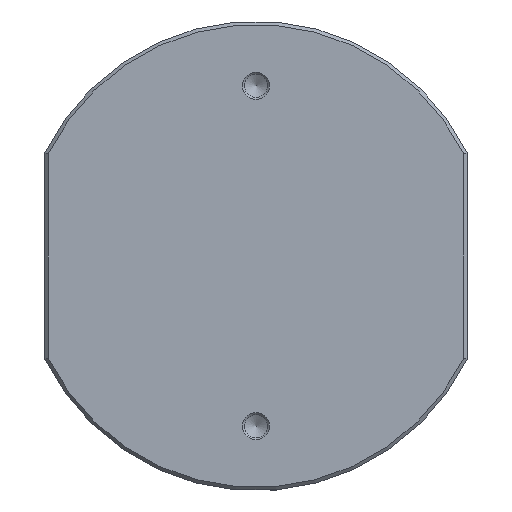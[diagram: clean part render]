
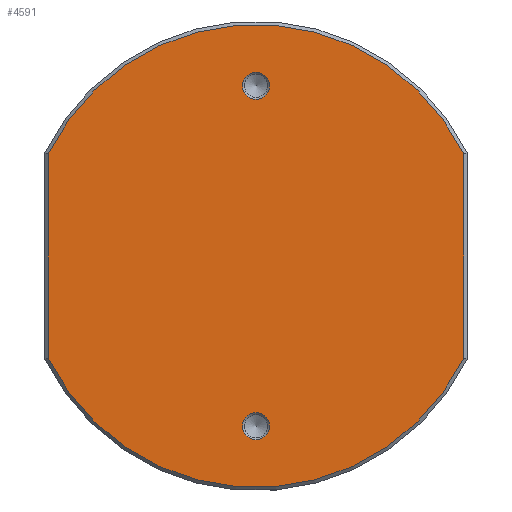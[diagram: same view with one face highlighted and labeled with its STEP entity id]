
A CAD part, front view. The second image highlights one B-rep face of the part: STEP entity #4591.
In plain terms, the highlighted planar face has unit normal (0, -1, 0).
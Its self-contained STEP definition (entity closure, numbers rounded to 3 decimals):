
#681=LINE('',#36121,#1237);
#682=LINE('',#36125,#1238);
#1237=VECTOR('',#17454,1.);
#1238=VECTOR('',#17457,1.);
#3774=FACE_BOUND('',#6443,.T.);
#3775=FACE_BOUND('',#6444,.T.);
#3776=FACE_BOUND('',#6445,.T.);
#4591=ADVANCED_FACE('',(#3774,#3775,#3776),#4943,.F.);
#4943=PLANE('',#14201);
#6443=EDGE_LOOP('',(#9285,#9286,#9287,#9288));
#6444=EDGE_LOOP('',(#9289));
#6445=EDGE_LOOP('',(#9290));
#9285=ORIENTED_EDGE('',*,*,#11883,.T.);
#9286=ORIENTED_EDGE('',*,*,#11884,.T.);
#9287=ORIENTED_EDGE('',*,*,#11885,.T.);
#9288=ORIENTED_EDGE('',*,*,#11886,.T.);
#9289=ORIENTED_EDGE('',*,*,#11881,.T.);
#9290=ORIENTED_EDGE('',*,*,#11878,.T.);
#10414=VERTEX_POINT('',#36105);
#10417=VERTEX_POINT('',#36113);
#10419=VERTEX_POINT('',#36119);
#10420=VERTEX_POINT('',#36120);
#10421=VERTEX_POINT('',#36122);
#10422=VERTEX_POINT('',#36124);
#11878=EDGE_CURVE('',#10414,#10414,#12596,.T.);
#11881=EDGE_CURVE('',#10417,#10417,#12599,.T.);
#11883=EDGE_CURVE('',#10419,#10420,#12601,.T.);
#11884=EDGE_CURVE('',#10420,#10421,#681,.T.);
#11885=EDGE_CURVE('',#10421,#10422,#12602,.T.);
#11886=EDGE_CURVE('',#10422,#10419,#682,.T.);
#12596=CIRCLE('',#14190,4.);
#12599=CIRCLE('',#14195,4.);
#12601=CIRCLE('',#14199,68.);
#12602=CIRCLE('',#14200,68.);
#14190=AXIS2_PLACEMENT_3D('',#36104,#17434,#17435);
#14195=AXIS2_PLACEMENT_3D('',#36112,#17444,#17445);
#14199=AXIS2_PLACEMENT_3D('',#36118,#17452,#17453);
#14200=AXIS2_PLACEMENT_3D('',#36123,#17455,#17456);
#14201=AXIS2_PLACEMENT_3D('',#36126,#17458,#17459);
#17434=DIRECTION('',(0.,1.,0.));
#17435=DIRECTION('',(0.,0.,1.));
#17444=DIRECTION('',(0.,1.,0.));
#17445=DIRECTION('',(0.,0.,1.));
#17452=DIRECTION('',(0.,-1.,0.));
#17453=DIRECTION('',(0.,0.,1.));
#17454=DIRECTION('',(0.,0.,1.));
#17455=DIRECTION('',(0.,-1.,0.));
#17456=DIRECTION('',(0.,0.,1.));
#17457=DIRECTION('',(0.,0.,-1.));
#17458=DIRECTION('',(0.,1.,0.));
#17459=DIRECTION('',(0.,0.,-1.));
#36104=CARTESIAN_POINT('',(53.409,7.,-105.5));
#36105=CARTESIAN_POINT('',(53.409,7.,-101.5));
#36112=CARTESIAN_POINT('',(53.41,7.,-5.5));
#36113=CARTESIAN_POINT('',(53.41,7.,-1.5));
#36118=CARTESIAN_POINT('',(53.41,7.,-55.5));
#36119=CARTESIAN_POINT('',(-7.591,7.,-85.55));
#36120=CARTESIAN_POINT('',(114.41,7.,-85.55));
#36121=CARTESIAN_POINT('',(114.41,7.,-111.));
#36122=CARTESIAN_POINT('',(114.41,7.,-25.45));
#36123=CARTESIAN_POINT('',(53.41,7.,-55.5));
#36124=CARTESIAN_POINT('',(-7.591,7.,-25.45));
#36125=CARTESIAN_POINT('',(-7.591,7.,-111.));
#36126=CARTESIAN_POINT('',(1.41,7.,-111.));
